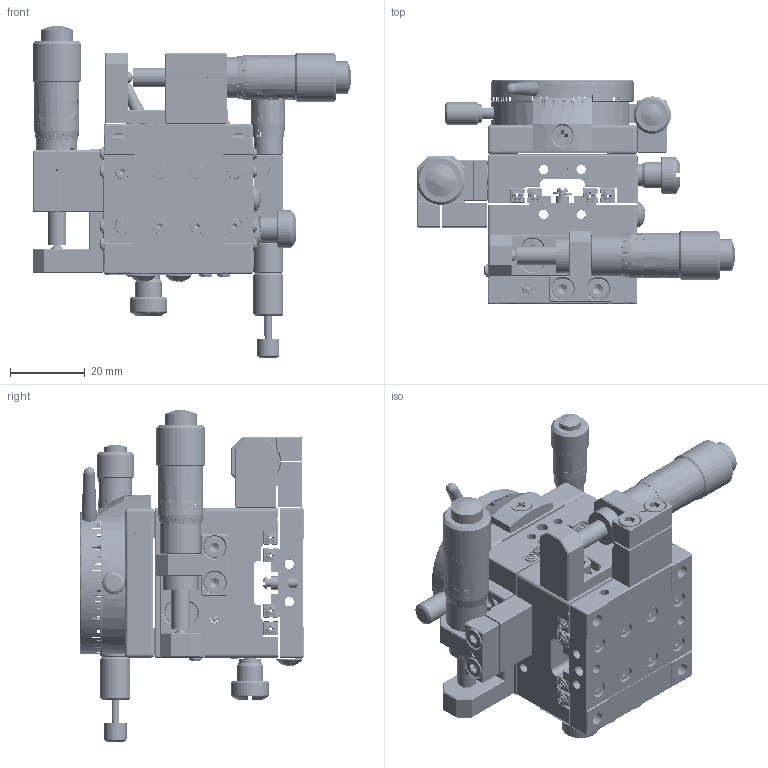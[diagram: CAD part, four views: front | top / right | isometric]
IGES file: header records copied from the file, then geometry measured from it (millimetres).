
Start section: SolidWorks IGES file using analytic representation for surfaces
Bounding box: 85.25 x 60 x 88.75 mm (x, y, z)
Surface area: 45833.9 mm2 (no closed solid volume)
Topology: 0 solids, 0 shells, 2562 faces, 42943 edges, 42868 vertices
Faces by surface type: bspline 1736, revolution 826
